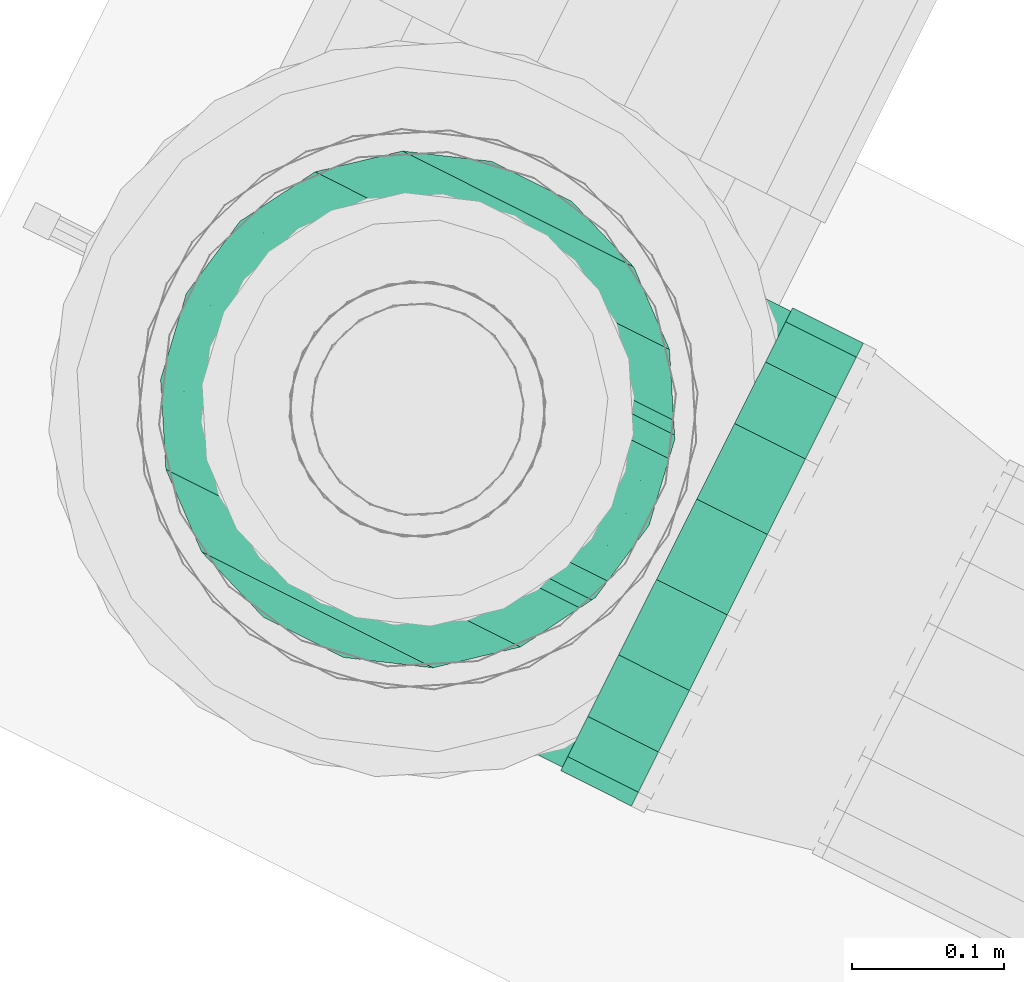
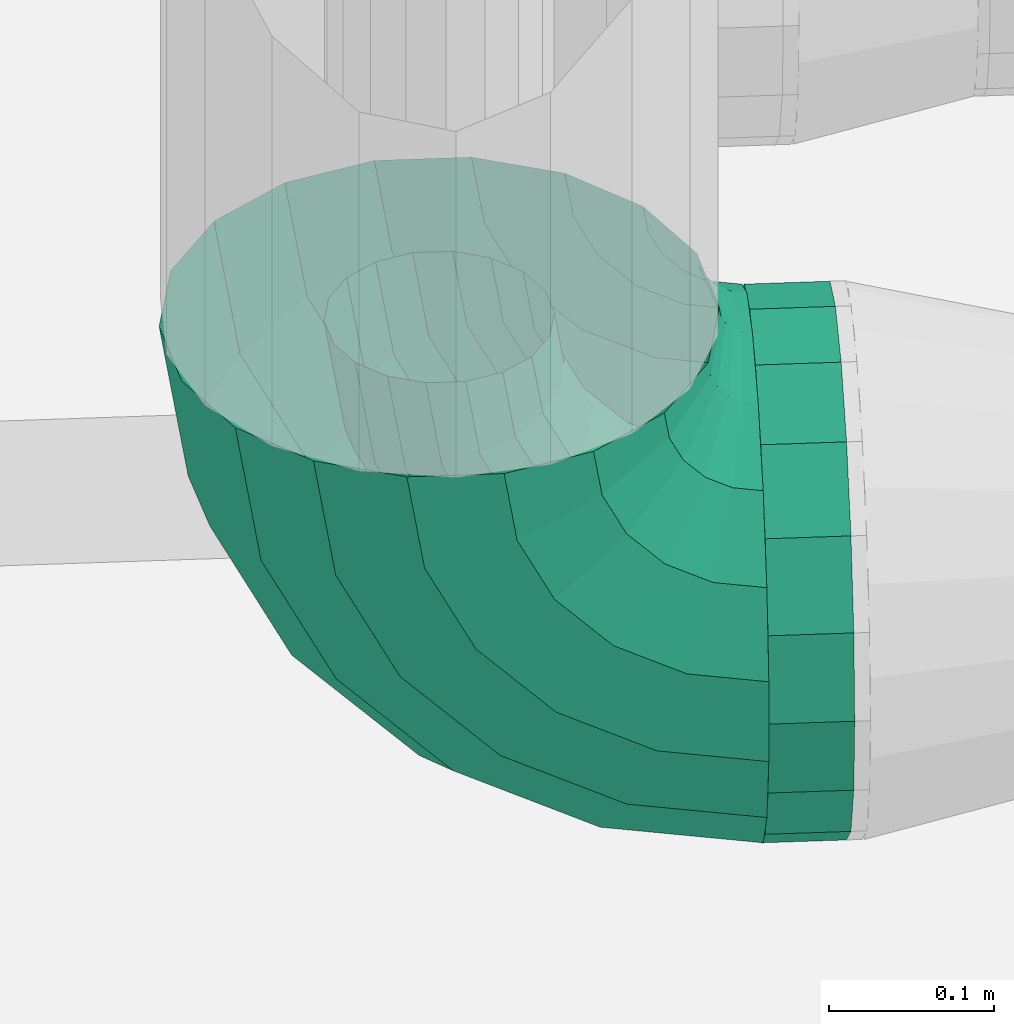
# One storey, part 96 of 152: 2 flow segments.
"""IFC2X3 building model written with IfcOpenShell, lengths in metres."""

from ifc_helpers import new_model, si_unit, derived_unit, direction, frame, origin, place, context, subcontext, project, spatial, face_set, surface_model, source, transform, mapped, material, type_object, type_shapes, element, save


model = new_model("IFC2X3")

# Units and contexts
model_context = context("Model", 3, precision=5.2338327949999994e-05, world=origin(), true_north=direction((0.0, 1.0)))
body_context = subcontext(model_context, "Body", "Model", "MODEL_VIEW")
ifc_project = project(units=[si_unit("LENGTHUNIT", "METRE"), si_unit("AREAUNIT", "SQUARE_METRE"), si_unit("VOLUMEUNIT", "CUBIC_METRE"), si_unit("MASSUNIT", "GRAM", prefix="KILO"), si_unit("PLANEANGLEUNIT", "RADIAN"), derived_unit("THERMALTRANSMITTANCEUNIT", [(si_unit("MASSUNIT", "GRAM", prefix="KILO"), 1), (si_unit("THERMODYNAMICTEMPERATUREUNIT", "KELVIN"), -1), (si_unit("TIMEUNIT", "SECOND"), -3)])], contexts=[model_context])

# Site, building, storey
site_placement = place(None, frame((0.0, 0.0, 0.0), z_axis=(0.0, 0.0, 1.0), x_axis=(0.8939966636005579, -0.4480736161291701, 0.0)))
site = spatial("IfcSite", under=ifc_project, at=site_placement, Name="Default", CompositionType="ELEMENT")
building_placement = place(site_placement, origin())
building = spatial("IfcBuilding", under=site, at=building_placement, CompositionType="ELEMENT")
storey_placement = place(building_placement, frame((0.0, 0.0, 2.7499999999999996)))
storey = spatial("IfcBuildingStorey", under=building, at=storey_placement, Name="1. Obergeschoss", CompositionType="ELEMENT", Elevation=2.7499999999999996)

# Flow segments
ifc_material = material(Name="IfcSurfaceStyle #9317")
distribution_element_type_1 = type_object("IfcDistributionElementType", Name="Rohrbogen 237024:Rohrbogen 237024", material=ifc_material)
shared_shape_1 = source(origin(), body_context, "Body", "SurfaceModel", [
    surface_model("IfcFaceBasedSurfaceModel", [(9.8157708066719, 5.856787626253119, 3.2553047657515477), (9.815770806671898, 5.832897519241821, 3.259517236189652), (9.736774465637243, 5.832897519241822, 3.2720290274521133), (9.735472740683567, 5.856787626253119, 3.268022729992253), (9.665510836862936, 5.832897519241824, 3.308339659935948), (9.6630348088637, 5.856787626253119, 3.30493169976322), (9.6089557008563, 5.832897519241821, 3.3648947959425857), (9.60554774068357, 5.856787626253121, 3.3624187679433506), (9.572645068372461, 5.83289751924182, 3.436158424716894), (9.5686387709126, 5.856787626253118, 3.434856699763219), (9.560133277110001, 5.83289751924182, 3.515154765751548), (9.555920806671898, 5.8567876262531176, 3.5151547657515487), (9.8157708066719, 5.811888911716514, 3.2716465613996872), (9.740522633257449, 5.811888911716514, 3.2835647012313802), (9.672640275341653, 5.8118889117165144, 3.3181524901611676), (9.618768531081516, 5.811888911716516, 3.372024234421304), (9.584180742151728, 5.811888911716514, 3.439906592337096), (9.572262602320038, 5.8118889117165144, 3.515154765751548), (9.815770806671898, 5.796295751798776, 3.2902297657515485), (9.746265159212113, 5.796295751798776, 3.3012383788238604), (9.683563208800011, 5.796295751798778, 3.3331866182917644), (9.633802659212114, 5.796295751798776, 3.3829471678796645), (9.601854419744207, 5.796295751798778, 3.4456491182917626), (9.590845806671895, 5.796295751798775, 3.515154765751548), (9.815770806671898, 5.787998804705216, 3.313025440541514), (9.753309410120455, 5.787998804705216, 3.3229183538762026), (9.696962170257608, 5.787998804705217, 3.3516287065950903), (9.652244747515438, 5.787998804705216, 3.396346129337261), (9.62353439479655, 5.787998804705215, 3.4526933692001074), (9.613641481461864, 5.787998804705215, 3.5151547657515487), (9.815770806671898, 5.787998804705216, 3.3372840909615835), (9.76080574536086, 5.787998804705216, 3.345989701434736), (9.711221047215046, 5.787998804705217, 3.3712543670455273), (9.671870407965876, 5.787998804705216, 3.410605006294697), (9.646605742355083, 5.787998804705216, 3.46018970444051), (9.63790013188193, 5.787998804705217, 3.51515476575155), (9.815770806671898, 5.796295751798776, 3.3600797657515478), (9.767849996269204, 5.796295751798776, 3.3676696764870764), (9.724620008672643, 5.796295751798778, 3.389696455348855), (9.690312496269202, 5.796295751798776, 3.4240039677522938), (9.668285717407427, 5.796295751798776, 3.4672339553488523), (9.660695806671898, 5.796295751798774, 3.515154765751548), (9.815770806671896, 5.811888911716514, 3.378662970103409), (9.77359252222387, 5.811888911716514, 3.3853433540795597), (9.735542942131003, 5.8118889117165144, 3.404730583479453), (9.705346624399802, 5.811888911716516, 3.434926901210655), (9.685959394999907, 5.811888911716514, 3.472976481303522), (9.679279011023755, 5.811888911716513, 3.51515476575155), (9.815770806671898, 5.832897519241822, 3.3907922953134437), (9.777340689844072, 5.832897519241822, 3.3968790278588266), (9.742672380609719, 5.832897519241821, 3.4145434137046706), (9.71515945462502, 5.832897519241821, 3.4420563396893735), (9.697495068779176, 5.83289751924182, 3.4767246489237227), (9.691408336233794, 5.83289751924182, 3.5151547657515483), (9.8157708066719, 5.856787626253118, 3.3950047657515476), (9.77864241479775, 5.856787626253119, 3.4008853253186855), (9.745148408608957, 5.856787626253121, 3.4179513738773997), (9.71856741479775, 5.856787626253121, 3.4445323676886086), (9.701501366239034, 5.856787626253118, 3.478026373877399), (9.695620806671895, 5.8567876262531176, 3.5151547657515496), (9.815770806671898, 5.880677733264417, 3.390792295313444), (9.777340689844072, 5.880677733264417, 3.396879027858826), (9.742672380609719, 5.8806777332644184, 3.414543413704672), (9.71515945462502, 5.8806777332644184, 3.442056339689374), (9.697495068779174, 5.880677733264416, 3.4767246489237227), (9.691408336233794, 5.880677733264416, 3.5151547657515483), (9.815770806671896, 5.901686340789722, 3.3786629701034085), (9.77359252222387, 5.901686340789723, 3.3853433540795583), (9.735542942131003, 5.901686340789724, 3.4047305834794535), (9.705346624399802, 5.901686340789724, 3.434926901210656), (9.685959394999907, 5.901686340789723, 3.472976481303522), (9.679279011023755, 5.901686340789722, 3.5151547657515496), (9.815770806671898, 5.917279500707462, 3.360079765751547), (9.767849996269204, 5.917279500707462, 3.3676696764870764), (9.724620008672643, 5.917279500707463, 3.389696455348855), (9.690312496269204, 5.917279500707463, 3.424003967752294), (9.668285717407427, 5.917279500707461, 3.4672339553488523), (9.660695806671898, 5.917279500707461, 3.515154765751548), (9.815770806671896, 5.925576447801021, 3.3372840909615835), (9.760805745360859, 5.9255764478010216, 3.3459897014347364), (9.711221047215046, 5.925576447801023, 3.371254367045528), (9.671870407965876, 5.9255764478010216, 3.410605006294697), (9.646605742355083, 5.925576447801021, 3.46018970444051), (9.63790013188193, 5.925576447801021, 3.51515476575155), (9.8157708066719, 5.9255764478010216, 3.3130254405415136), (9.753309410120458, 5.925576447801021, 3.3229183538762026), (9.696962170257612, 5.925576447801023, 3.3516287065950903), (9.652244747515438, 5.925576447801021, 3.396346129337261), (9.62353439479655, 5.925576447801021, 3.4526933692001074), (9.613641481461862, 5.925576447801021, 3.5151547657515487), (9.815770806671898, 5.917279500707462, 3.290229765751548), (9.746265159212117, 5.917279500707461, 3.3012383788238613), (9.683563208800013, 5.917279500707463, 3.333186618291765), (9.633802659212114, 5.917279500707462, 3.3829471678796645), (9.601854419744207, 5.917279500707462, 3.4456491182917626), (9.590845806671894, 5.917279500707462, 3.515154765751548), (9.8157708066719, 5.901686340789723, 3.271646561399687), (9.740522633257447, 5.901686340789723, 3.28356470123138), (9.672640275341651, 5.901686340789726, 3.3181524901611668), (9.618768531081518, 5.901686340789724, 3.3720242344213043), (9.584180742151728, 5.901686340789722, 3.439906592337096), (9.572262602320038, 5.901686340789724, 3.515154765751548), (9.815770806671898, 5.880677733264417, 3.259517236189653), (9.736774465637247, 5.880677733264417, 3.272029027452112), (9.665510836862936, 5.880677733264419, 3.3083396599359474), (9.6089557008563, 5.8806777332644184, 3.3648947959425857), (9.57264506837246, 5.880677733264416, 3.4361584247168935), (9.560133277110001, 5.880677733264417, 3.515154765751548), (9.815770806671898, 5.856787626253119, 3.155304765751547), (9.815770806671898, 5.798695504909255, 3.1655479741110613), (9.707736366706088, 5.798695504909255, 3.1826589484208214), (9.704571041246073, 5.856787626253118, 3.1729170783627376), (9.610277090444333, 5.798695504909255, 3.2323169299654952), (9.604256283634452, 5.856787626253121, 3.224030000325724), (9.532932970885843, 5.798695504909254, 3.309661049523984), (9.524646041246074, 5.856787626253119, 3.303640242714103), (9.483274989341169, 5.798695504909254, 3.4071203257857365), (9.473533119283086, 5.856787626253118, 3.403955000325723), (9.46616401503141, 5.798695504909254, 3.5151547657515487), (9.455920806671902, 5.856787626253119, 3.5151547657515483), (9.815770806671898, 5.74761015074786, 3.195042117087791), (9.716850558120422, 5.74761015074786, 3.2107095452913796), (9.62761331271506, 5.74761015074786, 3.2561781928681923), (9.55679423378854, 5.747610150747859, 3.3269972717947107), (9.511325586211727, 5.747610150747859, 3.4162345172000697), (9.49565815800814, 5.747610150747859, 3.515154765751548), (9.8157708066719, 5.7096932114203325, 3.240229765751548), (9.730814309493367, 5.709693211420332, 3.2536855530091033), (9.654173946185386, 5.709693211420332, 3.2927357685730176), (9.593351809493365, 5.709693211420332, 3.353557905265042), (9.554301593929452, 5.709693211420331, 3.4301982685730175), (9.540845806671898, 5.709693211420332, 3.5151547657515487), (9.815770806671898, 5.689518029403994, 3.295660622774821), (9.747943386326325, 5.689518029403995, 3.3064034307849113), (9.6867553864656, 5.689518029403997, 3.3375802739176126), (9.63819631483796, 5.689518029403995, 3.3861393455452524), (9.60701947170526, 5.689518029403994, 3.447327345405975), (9.59627666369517, 5.689518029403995, 3.515154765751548), (9.815770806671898, 5.689518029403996, 3.3546489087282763), (9.766171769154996, 5.689518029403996, 3.3625046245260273), (9.721427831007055, 5.689518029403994, 3.3853027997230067), (9.685918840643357, 5.689518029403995, 3.4208117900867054), (9.663120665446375, 5.689518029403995, 3.4655557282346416), (9.655264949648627, 5.689518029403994, 3.515154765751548), (9.8157708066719, 5.709693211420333, 3.410079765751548), (9.78330084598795, 5.709693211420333, 3.415222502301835), (9.754009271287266, 5.709693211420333, 3.4301473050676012), (9.73076334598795, 5.709693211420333, 3.453393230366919), (9.715838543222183, 5.7096932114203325, 3.4826848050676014), (9.710695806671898, 5.709693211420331, 3.5151547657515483), (9.815770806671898, 5.74761015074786, 3.4552674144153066), (9.797264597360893, 5.747610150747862, 3.458198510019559), (9.780569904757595, 5.747610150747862, 3.466704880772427), (9.767320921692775, 5.74761015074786, 3.479953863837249), (9.758814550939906, 5.74761015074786, 3.4966485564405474), (9.755883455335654, 5.747610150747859, 3.5151547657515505), (9.815770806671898, 5.798695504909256, 3.4847615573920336), (9.80637878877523, 5.798695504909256, 3.4862491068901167), (9.79790612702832, 5.798695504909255, 3.490566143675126), (9.79118218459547, 5.7986955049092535, 3.497290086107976), (9.786865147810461, 5.7986955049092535, 3.5057627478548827), (9.785377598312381, 5.798695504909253, 3.51515476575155), (9.8157708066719, 5.856787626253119, 3.4950047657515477), (9.809544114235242, 5.856787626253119, 3.4959909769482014), (9.803926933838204, 5.856787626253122, 3.4988530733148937), (9.799469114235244, 5.856787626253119, 3.5033108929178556), (9.79660701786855, 5.856787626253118, 3.5089280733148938), (9.795620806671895, 5.856787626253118, 3.515154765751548), (9.815770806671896, 5.914879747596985, 3.4847615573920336), (9.80637878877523, 5.914879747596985, 3.486249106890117), (9.79790612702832, 5.914879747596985, 3.4905661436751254), (9.79118218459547, 5.9148797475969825, 3.497290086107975), (9.786865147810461, 5.914879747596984, 3.5057627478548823), (9.78537759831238, 5.914879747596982, 3.5151547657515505), (9.8157708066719, 5.9659651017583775, 3.455267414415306), (9.797264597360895, 5.965965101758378, 3.458198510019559), (9.780569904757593, 5.965965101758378, 3.466704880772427), (9.767320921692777, 5.9659651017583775, 3.4799538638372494), (9.758814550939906, 5.9659651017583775, 3.4966485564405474), (9.755883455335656, 5.965965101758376, 3.5151547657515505), (9.8157708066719, 6.003882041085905, 3.4100797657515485), (9.78330084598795, 6.003882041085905, 3.415222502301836), (9.754009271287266, 6.003882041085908, 3.430147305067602), (9.73076334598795, 6.003882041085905, 3.4533932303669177), (9.715838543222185, 6.003882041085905, 3.4826848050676), (9.7106958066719, 6.003882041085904, 3.515154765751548), (9.815770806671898, 6.024057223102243, 3.3546489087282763), (9.766171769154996, 6.024057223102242, 3.3625046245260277), (9.721427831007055, 6.024057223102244, 3.385302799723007), (9.685918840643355, 6.024057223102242, 3.4208117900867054), (9.663120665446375, 6.024057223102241, 3.4655557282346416), (9.655264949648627, 6.024057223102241, 3.515154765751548), (9.815770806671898, 6.024057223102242, 3.2956606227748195), (9.747943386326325, 6.024057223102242, 3.306403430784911), (9.686755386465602, 6.024057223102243, 3.3375802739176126), (9.63819631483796, 6.024057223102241, 3.3861393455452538), (9.60701947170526, 6.024057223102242, 3.447327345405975), (9.596276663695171, 6.024057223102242, 3.515154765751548), (9.815770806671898, 6.003882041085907, 3.240229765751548), (9.730814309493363, 6.003882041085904, 3.2536855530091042), (9.654173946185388, 6.003882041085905, 3.2927357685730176), (9.593351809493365, 6.003882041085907, 3.353557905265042), (9.554301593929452, 6.003882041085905, 3.4301982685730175), (9.5408458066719, 6.003882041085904, 3.5151547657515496), (9.815770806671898, 5.965965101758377, 3.1950421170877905), (9.716850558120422, 5.9659651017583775, 3.2107095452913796), (9.62761331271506, 5.965965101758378, 3.256178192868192), (9.55679423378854, 5.965965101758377, 3.326997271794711), (9.51132558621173, 5.965965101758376, 3.416234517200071), (9.495658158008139, 5.965965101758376, 3.515154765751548), (9.815770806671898, 5.914879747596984, 3.1655479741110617), (9.707736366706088, 5.914879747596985, 3.182658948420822), (9.610277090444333, 5.914879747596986, 3.2323169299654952), (9.532932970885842, 5.914879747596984, 3.3096610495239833), (9.483274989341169, 5.9148797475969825, 3.4071203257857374), (9.466164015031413, 5.914879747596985, 3.5151547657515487)], [face_set([[[0, 1, 2, 3]], [[3, 2, 4, 5]], [[5, 4, 6, 7]], [[7, 6, 8, 9]], [[9, 8, 10, 11]], [[1, 12, 13, 2]], [[2, 13, 14, 4]], [[4, 14, 15, 6]], [[6, 15, 16, 8]], [[8, 16, 17, 10]], [[12, 18, 19, 13]], [[13, 19, 20, 14]], [[14, 20, 21, 15]], [[15, 21, 22, 16]], [[16, 22, 23, 17]], [[18, 24, 25, 19]], [[19, 25, 26, 20]], [[20, 26, 27, 21]], [[21, 27, 28, 22]], [[22, 28, 29, 23]], [[24, 30, 31, 25]], [[25, 31, 32, 26]], [[26, 32, 33, 27]], [[27, 33, 34, 28]], [[28, 34, 35, 29]], [[30, 36, 37, 31]], [[31, 37, 38, 32]], [[32, 38, 39, 33]], [[33, 39, 40, 34]], [[34, 40, 41, 35]], [[36, 42, 43, 37]], [[37, 43, 44, 38]], [[38, 44, 45, 39]], [[39, 45, 46, 40]], [[40, 46, 47, 41]], [[42, 48, 49, 43]], [[43, 49, 50, 44]], [[44, 50, 51, 45]], [[45, 51, 52, 46]], [[46, 52, 53, 47]], [[48, 54, 55, 49]], [[49, 55, 56, 50]], [[50, 56, 57, 51]], [[51, 57, 58, 52]], [[52, 58, 59, 53]], [[54, 60, 61, 55]], [[55, 61, 62, 56]], [[56, 62, 63, 57]], [[57, 63, 64, 58]], [[58, 64, 65, 59]], [[60, 66, 67, 61]], [[61, 67, 68, 62]], [[62, 68, 69, 63]], [[63, 69, 70, 64]], [[64, 70, 71, 65]], [[66, 72, 73, 67]], [[67, 73, 74, 68]], [[68, 74, 75, 69]], [[69, 75, 76, 70]], [[70, 76, 77, 71]], [[72, 78, 79, 73]], [[73, 79, 80, 74]], [[74, 80, 81, 75]], [[75, 81, 82, 76]], [[76, 82, 83, 77]], [[78, 84, 85, 79]], [[79, 85, 86, 80]], [[80, 86, 87, 81]], [[81, 87, 88, 82]], [[82, 88, 89, 83]], [[84, 90, 91, 85]], [[85, 91, 92, 86]], [[86, 92, 93, 87]], [[87, 93, 94, 88]], [[88, 94, 95, 89]], [[90, 96, 97, 91]], [[91, 97, 98, 92]], [[92, 98, 99, 93]], [[93, 99, 100, 94]], [[94, 100, 101, 95]], [[96, 102, 103, 97]], [[97, 103, 104, 98]], [[98, 104, 105, 99]], [[99, 105, 106, 100]], [[100, 106, 107, 101]], [[102, 0, 3, 103]], [[103, 3, 5, 104]], [[104, 5, 7, 105]], [[105, 7, 9, 106]], [[106, 9, 11, 107]], [[108, 109, 110, 111]], [[111, 110, 112, 113]], [[113, 112, 114, 115]], [[115, 114, 116, 117]], [[117, 116, 118, 119]], [[109, 120, 121, 110]], [[110, 121, 122, 112]], [[112, 122, 123, 114]], [[114, 123, 124, 116]], [[116, 124, 125, 118]], [[120, 126, 127, 121]], [[121, 127, 128, 122]], [[122, 128, 129, 123]], [[123, 129, 130, 124]], [[124, 130, 131, 125]], [[126, 132, 133, 127]], [[127, 133, 134, 128]], [[128, 134, 135, 129]], [[129, 135, 136, 130]], [[130, 136, 137, 131]], [[132, 138, 139, 133]], [[133, 139, 140, 134]], [[134, 140, 141, 135]], [[135, 141, 142, 136]], [[136, 142, 143, 137]], [[138, 144, 145, 139]], [[139, 145, 146, 140]], [[140, 146, 147, 141]], [[141, 147, 148, 142]], [[142, 148, 149, 143]], [[144, 150, 151, 145]], [[145, 151, 152, 146]], [[146, 152, 153, 147]], [[147, 153, 154, 148]], [[148, 154, 155, 149]], [[150, 156, 157, 151]], [[151, 157, 158, 152]], [[152, 158, 159, 153]], [[153, 159, 160, 154]], [[154, 160, 161, 155]], [[156, 162, 163, 157]], [[157, 163, 164, 158]], [[158, 164, 165, 159]], [[159, 165, 166, 160]], [[160, 166, 167, 161]], [[162, 168, 169, 163]], [[163, 169, 170, 164]], [[164, 170, 171, 165]], [[165, 171, 172, 166]], [[166, 172, 173, 167]], [[168, 174, 175, 169]], [[169, 175, 176, 170]], [[170, 176, 177, 171]], [[171, 177, 178, 172]], [[172, 178, 179, 173]], [[174, 180, 181, 175]], [[175, 181, 182, 176]], [[176, 182, 183, 177]], [[177, 183, 184, 178]], [[178, 184, 185, 179]], [[180, 186, 187, 181]], [[181, 187, 188, 182]], [[182, 188, 189, 183]], [[183, 189, 190, 184]], [[184, 190, 191, 185]], [[186, 192, 193, 187]], [[187, 193, 194, 188]], [[188, 194, 195, 189]], [[189, 195, 196, 190]], [[190, 196, 197, 191]], [[192, 198, 199, 193]], [[193, 199, 200, 194]], [[194, 200, 201, 195]], [[195, 201, 202, 196]], [[196, 202, 203, 197]], [[198, 204, 205, 199]], [[199, 205, 206, 200]], [[200, 206, 207, 201]], [[201, 207, 208, 202]], [[202, 208, 209, 203]], [[204, 210, 211, 205]], [[205, 211, 212, 206]], [[206, 212, 213, 207]], [[207, 213, 214, 208]], [[208, 214, 215, 209]], [[210, 108, 111, 211]], [[211, 111, 113, 212]], [[212, 113, 115, 213]], [[213, 115, 117, 214]], [[214, 117, 119, 215]]])]),
])
type_shapes(distribution_element_type_1, [shared_shape_1])
flow_segment_1_placement = place(storey_placement, frame((0.0, 0.0, -2.7499999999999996)))
element("IfcFlowSegment", 1, at=flow_segment_1_placement, inside=storey, type_object=distribution_element_type_1, material=ifc_material, Name="Rohrbogen", ObjectType="Rohrbogen", context=body_context, shape_type="MappedRepresentation", body=[
    mapped(shared_shape_1, transform((0.0, 0.0, 0.0), scale=1.0)),
])
distribution_element_type_2 = type_object("IfcDistributionElementType", Name="Stahlrohr nach DIN 2448 237070:Stahlrohr nach DIN 2448 237070", material=ifc_material)
shared_shape_2 = source(origin(), body_context, "Body", "SurfaceModel", [
    surface_model("IfcFaceBasedSurfaceModel", [(9.8677708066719, 5.92663762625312, 3.325154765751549), (9.8677708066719, 5.922425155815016, 3.301264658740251), (9.8157708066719, 5.922425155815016, 3.301264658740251), (9.8157708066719, 5.92663762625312, 3.325154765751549), (9.8677708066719, 5.910295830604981, 3.2802560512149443), (9.8157708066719, 5.910295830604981, 3.2802560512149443), (9.8677708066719, 5.8917126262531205, 3.2646628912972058), (9.8157708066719, 5.8917126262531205, 3.2646628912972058), (9.8677708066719, 5.868916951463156, 3.2563659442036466), (9.8157708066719, 5.868916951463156, 3.2563659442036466), (9.8677708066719, 5.8446583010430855, 3.2563659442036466), (9.8157708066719, 5.8446583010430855, 3.2563659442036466), (9.8677708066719, 5.82186262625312, 3.2646628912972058), (9.8157708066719, 5.82186262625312, 3.2646628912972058), (9.8677708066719, 5.803279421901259, 3.2802560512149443), (9.8157708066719, 5.803279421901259, 3.2802560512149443), (9.8677708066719, 5.791150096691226, 3.3012646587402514), (9.8157708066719, 5.791150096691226, 3.3012646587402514), (9.8677708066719, 5.7869376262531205, 3.325154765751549), (9.8157708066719, 5.7869376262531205, 3.325154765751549), (9.8677708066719, 5.791150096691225, 3.349044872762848), (9.8157708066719, 5.791150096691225, 3.349044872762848), (9.8677708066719, 5.803279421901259, 3.370053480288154), (9.8157708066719, 5.803279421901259, 3.370053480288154), (9.8677708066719, 5.821862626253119, 3.3856466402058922), (9.8157708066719, 5.821862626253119, 3.3856466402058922), (9.8677708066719, 5.844658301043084, 3.393943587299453), (9.8157708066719, 5.844658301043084, 3.393943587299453), (9.8677708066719, 5.868916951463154, 3.393943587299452), (9.8157708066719, 5.868916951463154, 3.393943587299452), (9.8677708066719, 5.8917126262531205, 3.385646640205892), (9.8157708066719, 5.8917126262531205, 3.385646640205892), (9.8677708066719, 5.910295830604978, 3.3700534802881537), (9.8157708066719, 5.910295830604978, 3.3700534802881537), (9.8677708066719, 5.922425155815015, 3.3490448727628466), (9.8157708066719, 5.922425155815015, 3.3490448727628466), (9.8677708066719, 6.026637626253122, 3.3251547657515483), (9.8677708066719, 6.016394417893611, 3.2670626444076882), (9.8157708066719, 6.016394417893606, 3.2670626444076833), (9.8157708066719, 6.026637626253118, 3.3251547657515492), (9.8677708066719, 5.986900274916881, 3.21597729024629), (9.8157708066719, 5.986900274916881, 3.21597729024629), (9.8677708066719, 5.941712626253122, 3.178060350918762), (9.8157708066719, 5.941712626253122, 3.178060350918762), (9.8677708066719, 5.886281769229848, 3.1578851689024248), (9.8157708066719, 5.886281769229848, 3.1578851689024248), (9.8677708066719, 5.827293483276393, 3.157885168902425), (9.8157708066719, 5.827293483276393, 3.157885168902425), (9.8677708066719, 5.771862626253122, 3.1780603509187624), (9.8157708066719, 5.771862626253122, 3.1780603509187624), (9.8677708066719, 5.7266749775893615, 3.21597729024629), (9.8157708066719, 5.7266749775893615, 3.21597729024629), (9.8677708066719, 5.697180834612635, 3.2670626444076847), (9.8157708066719, 5.697180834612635, 3.2670626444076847), (9.8677708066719, 5.686937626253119, 3.3251547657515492), (9.8157708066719, 5.686937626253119, 3.3251547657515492), (9.8677708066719, 5.6971808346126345, 3.3832468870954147), (9.8157708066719, 5.6971808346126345, 3.3832468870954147), (9.8677708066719, 5.726674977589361, 3.4343322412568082), (9.8157708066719, 5.726674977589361, 3.4343322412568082), (9.8677708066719, 5.771862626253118, 3.4722491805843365), (9.8157708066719, 5.771862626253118, 3.4722491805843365), (9.8677708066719, 5.82729348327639, 3.4924243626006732), (9.8157708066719, 5.82729348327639, 3.4924243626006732), (9.8677708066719, 5.886281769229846, 3.4924243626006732), (9.8157708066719, 5.886281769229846, 3.4924243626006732), (9.8677708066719, 5.941712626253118, 3.4722491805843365), (9.8157708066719, 5.941712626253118, 3.4722491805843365), (9.8677708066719, 5.986900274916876, 3.4343322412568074), (9.8157708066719, 5.986900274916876, 3.4343322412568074), (9.8677708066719, 6.016394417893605, 3.3832468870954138), (9.8157708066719, 6.016394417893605, 3.3832468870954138)], [face_set([[[0, 1, 2, 3]], [[1, 4, 5, 2]], [[4, 6, 7, 5]], [[6, 8, 9, 7]], [[8, 10, 11, 9]], [[10, 12, 13, 11]], [[12, 14, 15, 13]], [[14, 16, 17, 15]], [[16, 18, 19, 17]], [[18, 20, 21, 19]], [[20, 22, 23, 21]], [[22, 24, 25, 23]], [[24, 26, 27, 25]], [[26, 28, 29, 27]], [[28, 30, 31, 29]], [[30, 32, 33, 31]], [[32, 34, 35, 33]], [[34, 0, 3, 35]], [[36, 37, 38, 39]], [[37, 40, 41, 38]], [[40, 42, 43, 41]], [[42, 44, 45, 43]], [[44, 46, 47, 45]], [[46, 48, 49, 47]], [[48, 50, 51, 49]], [[50, 52, 53, 51]], [[52, 54, 55, 53]], [[54, 56, 57, 55]], [[56, 58, 59, 57]], [[58, 60, 61, 59]], [[60, 62, 63, 61]], [[62, 64, 65, 63]], [[64, 66, 67, 65]], [[66, 68, 69, 67]], [[68, 70, 71, 69]], [[70, 36, 39, 71]]])]),
])
type_shapes(distribution_element_type_2, [shared_shape_2])
flow_segment_2_placement = place(storey_placement, frame((0.0, 0.0, -2.7499999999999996)))
element("IfcFlowSegment", 2, at=flow_segment_2_placement, inside=storey, type_object=distribution_element_type_2, material=ifc_material, Name="Stahlrohr nach DIN 2448", ObjectType="Stahlrohr nach DIN 2448", context=body_context, shape_type="MappedRepresentation", body=[
    mapped(shared_shape_2, transform((0.0, 0.0, 0.0), scale=1.0)),
])

save(model, "model.ifc")
